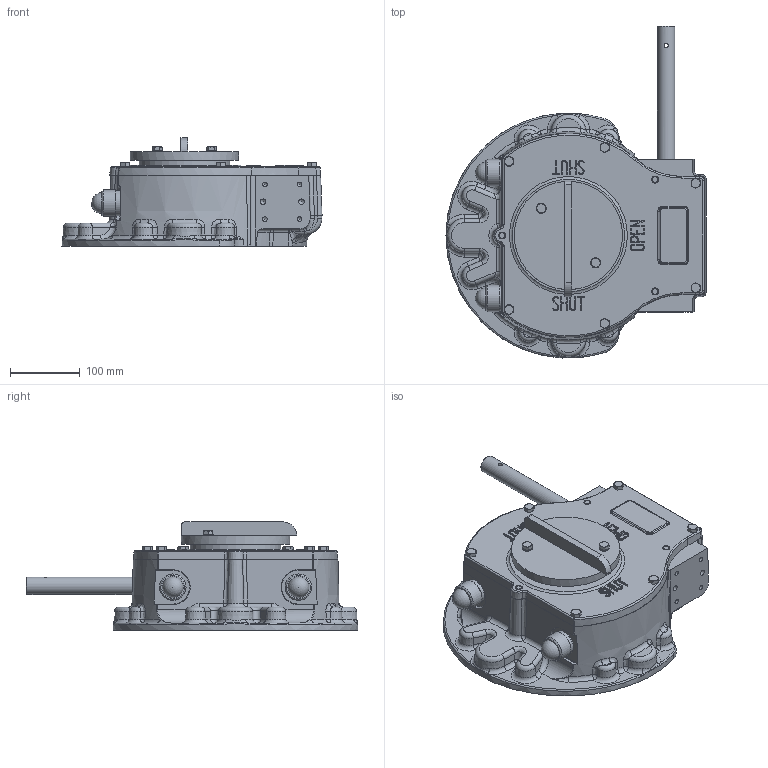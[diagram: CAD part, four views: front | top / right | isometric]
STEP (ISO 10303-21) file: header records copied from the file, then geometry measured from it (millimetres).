
FILE_DESCRIPTION( ( 'Unknown' ), '1' );
FILE_NAME( 'M:/Current Drawings/Internet datasheets/4 - STEP/AB3000N LB LH.stp', 'Unknown', ( 'Unknown' ), ( 'Unknown' ), 'PSStep 15.0.49', 'Unknown', ' ' );
FILE_SCHEMA( ( 'AUTOMOTIVE_DESIGN { 1 0 10303 214 1 1 1 1 }' ) );
Length unit declared in the file: millimetre
Products named in the file (1): 600PAP2528300
Bounding box: 372.35 x 475.17 x 155 mm (x, y, z)
Volume: 6516029.5 mm3; surface area: 693239.6 mm2
Topology: 1 solids, 32 shells, 1469 faces, 3622 edges, 2142 vertices
Faces by surface type: plane 367, cylinder 295, bspline 254, cone 253, torus 194, sphere 90, extrusion 16
Full cylindrical faces by diameter (mm): 6 x1, 6.647 x32, 7 x4, 8 x12, 8.376 x4, 8.5 x6, 9 x2, 10 x6, 14 x2, 20 x2, 25 x4, 26 x1, 28 x2, 30 x2, 35 x2, 36 x2, 38 x4, 47 x2, 125.95 x2, 130 x6, 155 x1
Entity records: 88091 total; most frequent: CARTESIAN_POINT 45872, ORIENTED_EDGE 6422, DIRECTION 5928, EDGE_CURVE 3211, AXIS2_PLACEMENT_3D 2596, VERTEX_POINT 2054, EDGE_LOOP 1738, FACE_OUTER_BOUND 1597
